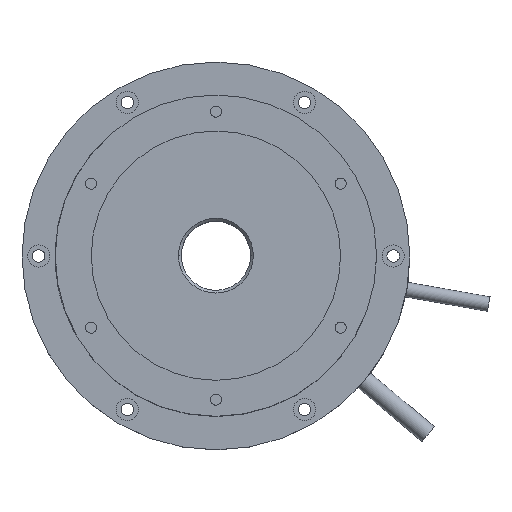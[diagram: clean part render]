
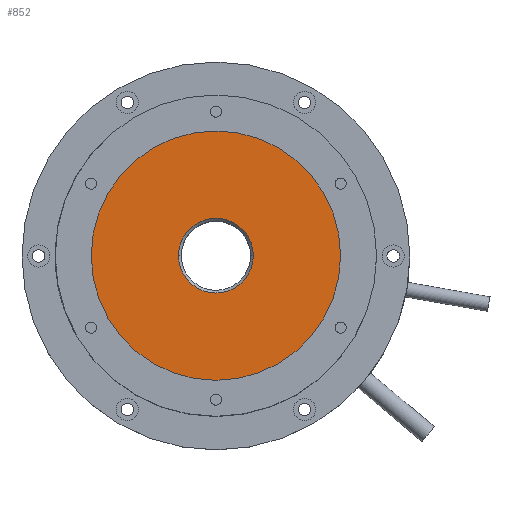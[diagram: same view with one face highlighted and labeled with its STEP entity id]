
A CAD part, top view. The second image highlights one B-rep face of the part: STEP entity #852.
In plain terms, the highlighted planar face has unit normal (0, 0, 1).
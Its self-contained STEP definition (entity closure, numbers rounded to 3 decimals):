
#330 = VERTEX_POINT ( 'NONE', #1683 ) ;
#335 = VERTEX_POINT ( 'NONE', #1693 ) ;
#337 = EDGE_CURVE ( 'NONE', #330, #335, #1801, .T. ) ;
#545 = VERTEX_POINT ( 'NONE', #2089 ) ;
#554 = EDGE_CURVE ( 'NONE', #545, #562, #2080, .T. ) ;
#562 = VERTEX_POINT ( 'NONE', #2101 ) ;
#850 = EDGE_CURVE ( 'NONE', #562, #545, #2672, .T. ) ;
#851 = EDGE_CURVE ( 'NONE', #335, #330, #2681, .T. ) ;
#852 = ADVANCED_FACE ( 'NONE', ( #2664, #2816 ), #2674, .T. ) ;
#854 = ORIENTED_EDGE ( 'NONE', *, *, #337, .T. ) ;
#856 = ORIENTED_EDGE ( 'NONE', *, *, #851, .T. ) ;
#857 = EDGE_LOOP ( 'NONE', ( #858, #924 ) ) ;
#858 = ORIENTED_EDGE ( 'NONE', *, *, #554, .F. ) ;
#920 = EDGE_LOOP ( 'NONE', ( #854, #856 ) ) ;
#924 = ORIENTED_EDGE ( 'NONE', *, *, #850, .F. ) ;
#1683 = CARTESIAN_POINT ( 'NONE',  ( 13.5, 0., 77. ) ) ;
#1691 = AXIS2_PLACEMENT_3D ( 'NONE', #1780, #1779, #1778 ) ;
#1693 = CARTESIAN_POINT ( 'NONE',  ( -13.5, 0., 77. ) ) ;
#1778 = DIRECTION ( 'NONE',  ( 1., 0., 0. ) ) ;
#1779 = DIRECTION ( 'NONE',  ( 0., 0., -1. ) ) ;
#1780 = CARTESIAN_POINT ( 'NONE',  ( 0., 0., 77. ) ) ;
#1801 = CIRCLE ( 'NONE', #1691, 13.5 ) ;
#2080 = CIRCLE ( 'NONE', #2085, 45. ) ;
#2085 = AXIS2_PLACEMENT_3D ( 'NONE', #2100, #2099, #2098 ) ;
#2089 = CARTESIAN_POINT ( 'NONE',  ( -45., 0., 77. ) ) ;
#2098 = DIRECTION ( 'NONE',  ( -1., 0., 0. ) ) ;
#2099 = DIRECTION ( 'NONE',  ( 0., 0., -1. ) ) ;
#2100 = CARTESIAN_POINT ( 'NONE',  ( 0., 0., 77. ) ) ;
#2101 = CARTESIAN_POINT ( 'NONE',  ( 45., 0., 77. ) ) ;
#2658 = DIRECTION ( 'NONE',  ( 1., 0., 0. ) ) ;
#2664 = FACE_BOUND ( 'NONE', #920, .T. ) ;
#2665 = DIRECTION ( 'NONE',  ( 1., 0., 0. ) ) ;
#2666 = DIRECTION ( 'NONE',  ( 0., 0., -1. ) ) ;
#2667 = CARTESIAN_POINT ( 'NONE',  ( 0., -12.5, 77. ) ) ;
#2668 = DIRECTION ( 'NONE',  ( 0., 0., 1. ) ) ;
#2669 = DIRECTION ( 'NONE',  ( -1., 0., 0. ) ) ;
#2670 = DIRECTION ( 'NONE',  ( 0., 0., -1. ) ) ;
#2671 = AXIS2_PLACEMENT_3D ( 'NONE', #2814, #2670, #2669 ) ;
#2672 = CIRCLE ( 'NONE', #2671, 45. ) ;
#2674 = PLANE ( 'NONE',  #2680 ) ;
#2679 = AXIS2_PLACEMENT_3D ( 'NONE', #2815, #2666, #2665 ) ;
#2680 = AXIS2_PLACEMENT_3D ( 'NONE', #2667, #2668, #2658 ) ;
#2681 = CIRCLE ( 'NONE', #2679, 13.5 ) ;
#2814 = CARTESIAN_POINT ( 'NONE',  ( 0., 0., 77. ) ) ;
#2815 = CARTESIAN_POINT ( 'NONE',  ( 0., 0., 77. ) ) ;
#2816 = FACE_OUTER_BOUND ( 'NONE', #857, .T. ) ;
